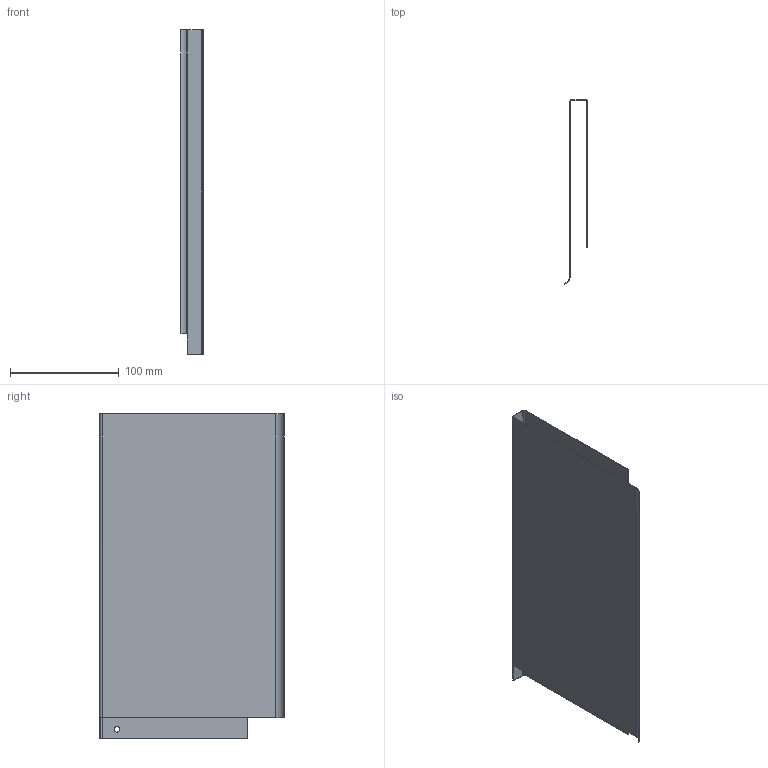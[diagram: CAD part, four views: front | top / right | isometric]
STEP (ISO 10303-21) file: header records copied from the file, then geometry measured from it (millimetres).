
FILE_DESCRIPTION (( 'STEP AP203' ), '1' );
FILE_NAME ('Nova Pro Duowing H186 HRW Classic rechts_NL300.step', '2014-02-14T11:55:47', ( 'test' ), ( '' ), 'SwSTEP 2.0', 'SolidWorks 2013', '' );
FILE_SCHEMA (( 'CONFIG_CONTROL_DESIGN' ));
Length unit declared in the file: millimetre
Products named in the file (1): Nova Pro Duowing H186 HRW Classic rechts_NL300
Bounding box: 20.72 x 169 x 297.5 mm (x, y, z)
Volume: 45898 mm3; surface area: 184216.5 mm2
Topology: 1 solids, 1 shells, 29 faces, 66 edges, 39 vertices
Faces by surface type: plane 20, cylinder 9
Entity records: 880 total; most frequent: DIRECTION 145, CARTESIAN_POINT 135, ORIENTED_EDGE 132, EDGE_CURVE 66, AXIS2_PLACEMENT_3D 49, VECTOR 47, LINE 47, VERTEX_POINT 39
